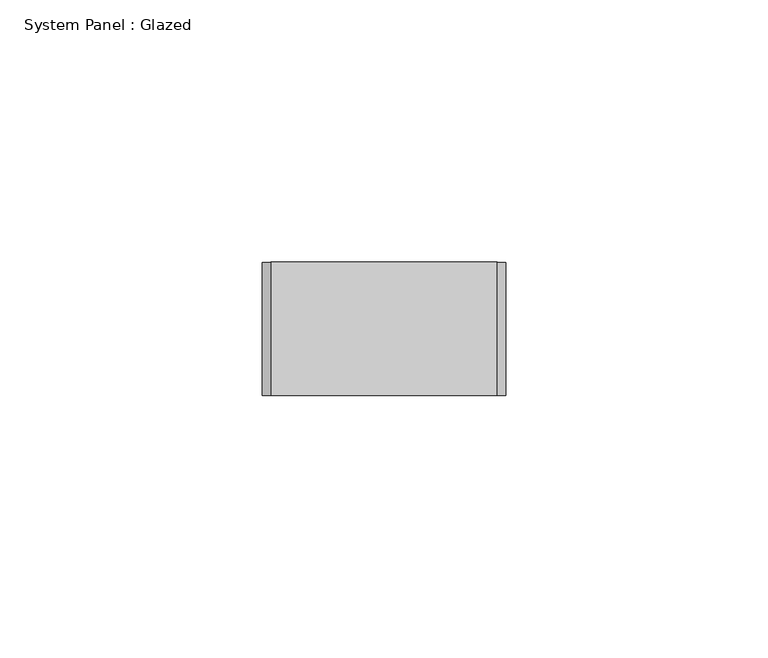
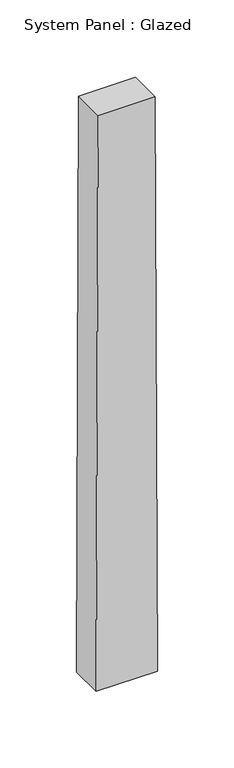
"""IFC4 building model written with IfcOpenShell, lengths in millimetres: plate geometry, System Panel : Glazed."""

from ifc_helpers import new_model, si_unit, frame, origin, place, context, project, spatial, polyline, outline, extrude, source, transform, mapped, element, save


def system_panel_glazed_af9ea4cd(model_context):
    return source(origin(), model_context, "Body", "SweptSolid", [
        extrude(outline(polyline([(0.0, -23.1953462), (0.0, 23.1953462), (458.6050276, 21.6182904), (458.6050276, -21.6182904), (0.0, -23.1953462)])), frame((0.0, 19.05, 0.0), z_axis=(0.0, 1.0, 0.0), x_axis=(0.0, 0.0, 1.0)), (0.0, 0.0, 1.0), 25.4),
    ])


if __name__ == "__main__":
    model = new_model("IFC4")
    model_context = context("Model", 3, world=origin())
    ifc_project = project(units=[si_unit("LENGTHUNIT", "METRE", prefix="MILLI")], contexts=[model_context])
    site = spatial("IfcSite", under=ifc_project)
    building = spatial("IfcBuilding", under=site)
    placement = place(None, origin())
    system_panel_glazed_shape = system_panel_glazed_af9ea4cd(model_context)
    element("IfcPlate", 1, ObjectType="System Panel : Glazed", at=placement, inside=building, context=model_context, shape_type="MappedRepresentation", body=[
        mapped(system_panel_glazed_shape, transform((0.0, 0.0, 0.0), x_axis=(1.0, 0.0, 0.0), y_axis=(0.0, 1.0, 0.0), z_axis=(0.0, 0.0, 1.0))),
    ])
    save(model, "model.ifc")
